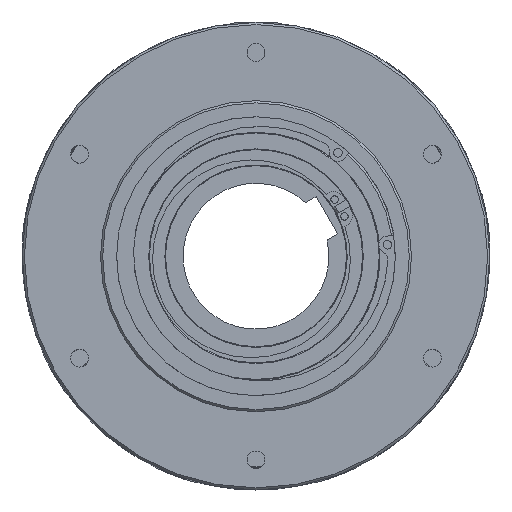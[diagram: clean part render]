
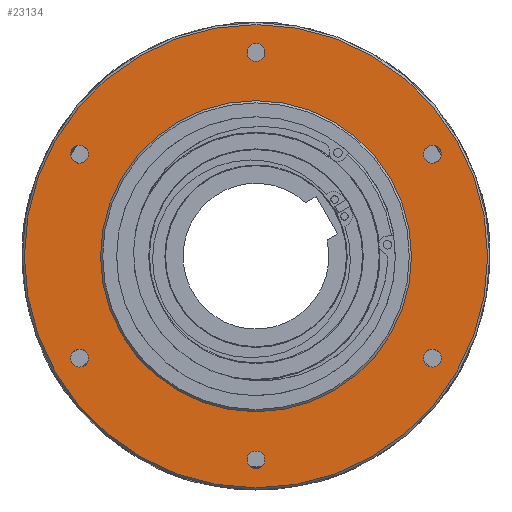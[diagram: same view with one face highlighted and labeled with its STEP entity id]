
A CAD part, left-side view. The second image highlights one B-rep face of the part: STEP entity #23134.
In plain terms, the highlighted planar face has unit normal (-1, 0, 0).
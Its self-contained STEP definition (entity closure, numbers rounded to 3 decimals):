
#23014=CARTESIAN_POINT('',(-138.,-36.25,62.787));
#23015=VERTEX_POINT('',#23014);
#23016=CARTESIAN_POINT('',(-138.,0.,0.));
#23017=DIRECTION('',(1.0,0.,0.));
#23018=DIRECTION('',(0.,-0.5,0.866));
#23019=AXIS2_PLACEMENT_3D('',#23016,#23017,#23018);
#23020=CIRCLE('',#23019,72.5);
#23021=EDGE_CURVE('',#23015,#23015,#23020,.T.);
#23049=CARTESIAN_POINT('',(-138.,-45.375,78.592));
#23050=DIRECTION('',(-1.0,0.0,0.0));
#23051=DIRECTION('',(0.0,-0.866,-0.5));
#23052=AXIS2_PLACEMENT_3D('',#23049,#23050,#23051);
#23053=PLANE('',#23052);
#23054=CARTESIAN_POINT('',(-138.,-54.0,93.531));
#23055=VERTEX_POINT('',#23054);
#23056=CARTESIAN_POINT('',(-138.,0.,0.));
#23057=DIRECTION('',(1.0,0.,0.));
#23058=DIRECTION('',(0.,0.5,-0.866));
#23059=AXIS2_PLACEMENT_3D('',#23056,#23057,#23058);
#23060=CIRCLE('',#23059,108.0);
#23061=EDGE_CURVE('',#23055,#23055,#23060,.T.);
#23062=ORIENTED_EDGE('',*,*,#23061,.F.);
#23063=EDGE_LOOP('',(#23062));
#23064=FACE_OUTER_BOUND('',#23063,.T.);
#23065=CARTESIAN_POINT('',(-138.,-85.899,49.594));
#23066=VERTEX_POINT('',#23065);
#23067=CARTESIAN_POINT('',(-138.,-82.272,47.5));
#23068=DIRECTION('',(1.,0.,0.));
#23069=DIRECTION('',(0.,-0.866,0.5));
#23070=AXIS2_PLACEMENT_3D('',#23067,#23068,#23069);
#23071=CIRCLE('',#23070,4.188);
#23072=EDGE_CURVE('',#23066,#23066,#23071,.T.);
#23073=ORIENTED_EDGE('',*,*,#23072,.T.);
#23074=EDGE_LOOP('',(#23073));
#23075=FACE_BOUND('',#23074,.T.);
#23076=CARTESIAN_POINT('',(-138.,0.,99.188));
#23077=VERTEX_POINT('',#23076);
#23078=CARTESIAN_POINT('',(-138.,0.,95.0));
#23079=DIRECTION('',(1.0,0.0,0.0));
#23080=DIRECTION('',(0.0,0.0,1.0));
#23081=AXIS2_PLACEMENT_3D('',#23078,#23079,#23080);
#23082=CIRCLE('',#23081,4.188);
#23083=EDGE_CURVE('',#23077,#23077,#23082,.T.);
#23084=ORIENTED_EDGE('',*,*,#23083,.T.);
#23085=EDGE_LOOP('',(#23084));
#23086=FACE_BOUND('',#23085,.T.);
#23087=CARTESIAN_POINT('',(-138.,85.899,49.594));
#23088=VERTEX_POINT('',#23087);
#23089=CARTESIAN_POINT('',(-138.,82.272,47.5));
#23090=DIRECTION('',(1.0,0.,0.));
#23091=DIRECTION('',(0.,0.866,0.5));
#23092=AXIS2_PLACEMENT_3D('',#23089,#23090,#23091);
#23093=CIRCLE('',#23092,4.188);
#23094=EDGE_CURVE('',#23088,#23088,#23093,.T.);
#23095=ORIENTED_EDGE('',*,*,#23094,.T.);
#23096=EDGE_LOOP('',(#23095));
#23097=FACE_BOUND('',#23096,.T.);
#23098=CARTESIAN_POINT('',(-138.,85.899,-49.594));
#23099=VERTEX_POINT('',#23098);
#23100=CARTESIAN_POINT('',(-138.,82.272,-47.5));
#23101=DIRECTION('',(1.,0.,0.));
#23102=DIRECTION('',(0.,0.866,-0.5));
#23103=AXIS2_PLACEMENT_3D('',#23100,#23101,#23102);
#23104=CIRCLE('',#23103,4.188);
#23105=EDGE_CURVE('',#23099,#23099,#23104,.T.);
#23106=ORIENTED_EDGE('',*,*,#23105,.T.);
#23107=EDGE_LOOP('',(#23106));
#23108=FACE_BOUND('',#23107,.T.);
#23109=CARTESIAN_POINT('',(-138.,0.,-99.188));
#23110=VERTEX_POINT('',#23109);
#23111=CARTESIAN_POINT('',(-138.,0.,-95.0));
#23112=DIRECTION('',(1.0,0.0,0.0));
#23113=DIRECTION('',(0.0,0.0,-1.0));
#23114=AXIS2_PLACEMENT_3D('',#23111,#23112,#23113);
#23115=CIRCLE('',#23114,4.188);
#23116=EDGE_CURVE('',#23110,#23110,#23115,.T.);
#23117=ORIENTED_EDGE('',*,*,#23116,.T.);
#23118=EDGE_LOOP('',(#23117));
#23119=FACE_BOUND('',#23118,.T.);
#23120=CARTESIAN_POINT('',(-138.,-85.899,-49.594));
#23121=VERTEX_POINT('',#23120);
#23122=CARTESIAN_POINT('',(-138.,-82.272,-47.5));
#23123=DIRECTION('',(1.0,0.,0.));
#23124=DIRECTION('',(0.,-0.866,-0.5));
#23125=AXIS2_PLACEMENT_3D('',#23122,#23123,#23124);
#23126=CIRCLE('',#23125,4.188);
#23127=EDGE_CURVE('',#23121,#23121,#23126,.T.);
#23128=ORIENTED_EDGE('',*,*,#23127,.T.);
#23129=EDGE_LOOP('',(#23128));
#23130=FACE_BOUND('',#23129,.T.);
#23131=ORIENTED_EDGE('',*,*,#23021,.T.);
#23132=EDGE_LOOP('',(#23131));
#23133=FACE_BOUND('',#23132,.T.);
#23134=ADVANCED_FACE('',(#23064,#23075,#23086,#23097,#23108,#23119,#23130,#23133),#23053,.T.);
